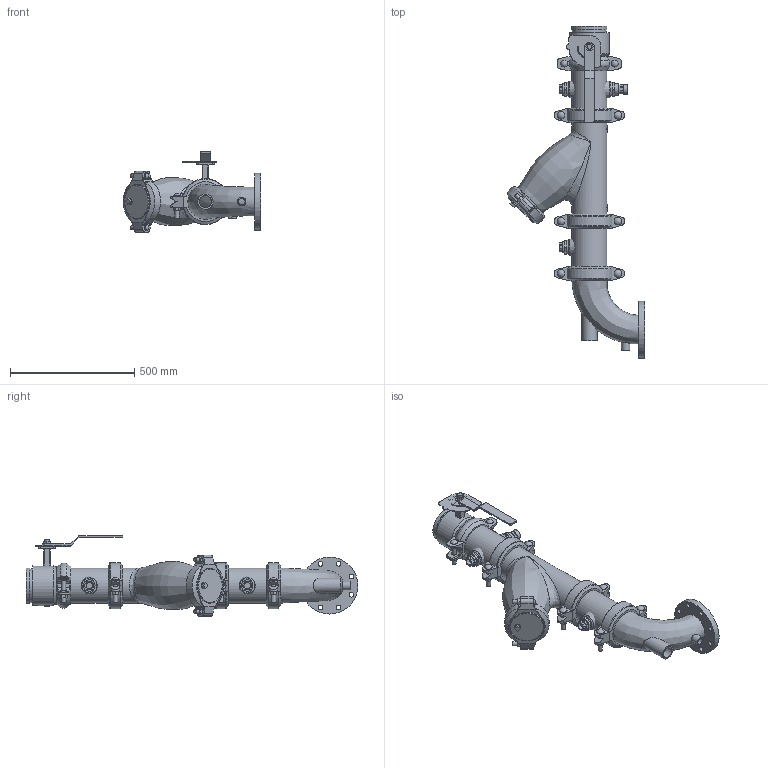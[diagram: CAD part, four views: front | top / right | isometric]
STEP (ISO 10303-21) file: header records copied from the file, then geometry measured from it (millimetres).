
FILE_DESCRIPTION(/* description */ ('VIC SVI PUMP DROP HORZ S/382 (OGSxFLG) (S/924-0.75)','CAx-IF Rec.Pracs.---Representation and Presentation of Product Manufacturing Information (PMI)---4.0---2014-10-13'),/* implementation_level */ '2;1');
FILE_NAME(/* name */ 'C:\Users\Vjadhav\AppData\Roaming\Autodesk\ApplicationPlugins\Victaulic.Temp\A115\Series 382 (OGSxFLG)_924 (0.75)_05.0x04.0 (125x100).stp',/* time_stamp */ '2022-03-17T12:18:55+06:00',/* author */ ('kkamble'),/* organization */ ('Victaulic'),/* preprocessor_version */ 'ST-DEVELOPER v17.2',/* originating_system */ 'Autodesk Inventor 2019',/* authorisation */ '');
FILE_SCHEMA (('AP242_MANAGED_MODEL_BASED_3D_ENGINEERING_MIM_LF { 1 0 10303 442 1 1 4 }'));
Length unit declared in the file: inch
Products named in the file (13): 382_924 (0.75)-05.0x04.0; PIPE-05.0; 107N-05.0; 732-05.0; 732-05.0_1; 07-05.0; 732-05.0_2; PIPE-05.3; 761-05.0; 924-04.0x0.75; 177N-05.0; 923-04.0x0.75; R100F-05.0x04.0
Assembly tree (15 placements, depth 3):
  382_924 (0.75)-05.0x04.0
    PIPE-05.0
    107N-05.0
    732-05.0
      732-05.0_1
      07-05.0
      732-05.0_2
    177N-05.0  x3
    PIPE-05.3
    761-05.0
    924-04.0x0.75
    923-04.0x0.75  x2
    R100F-05.0x04.0
Bounding box: 552.45 x 1335.09 x 323.41 mm (x, y, z)
Volume: 10146792.6 mm3; surface area: 2271253.5 mm2
Topology: 14 solids, 17 shells, 874 faces, 2258 edges, 1504 vertices
Faces by surface type: plane 484, cylinder 293, bspline 30, torus 30, cone 27, sphere 10
Full cylindrical faces by diameter (mm): 4.826 x10, 8.636 x4, 15.875 x8, 17.78 x6, 19.05 x10, 22.86 x1, 25.4 x3, 26.67 x4, 27.381 x2, 30.48 x6, 34.29 x1, 38.608 x1, 45.974 x6, 48.26 x1, 55.118 x1, 55.626 x3, 60.96 x1, 102.26 x1, 117.602 x1, 127.356 x1, 127.584 x1, 128.194 x4, 128.6 x4, 134.95 x1, 137.033 x11, 141.3 x26, 160.02 x1, 228.6 x1
Entity records: 25491 total; most frequent: CARTESIAN_POINT 8358, DIRECTION 3471, ORIENTED_EDGE 3252, EDGE_CURVE 1626, AXIS2_PLACEMENT_3D 1323, VERTEX_POINT 1088, LINE 825, VECTOR 825
